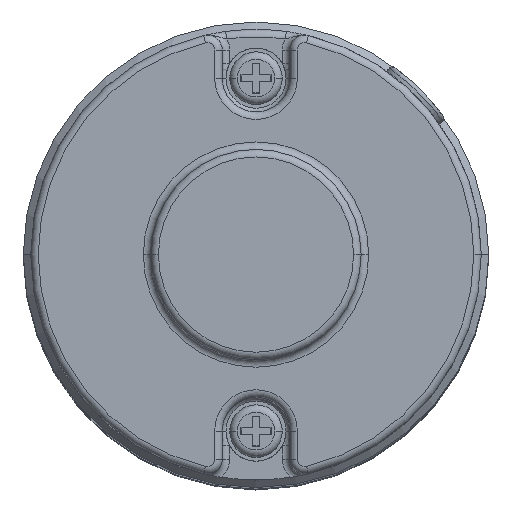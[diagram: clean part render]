
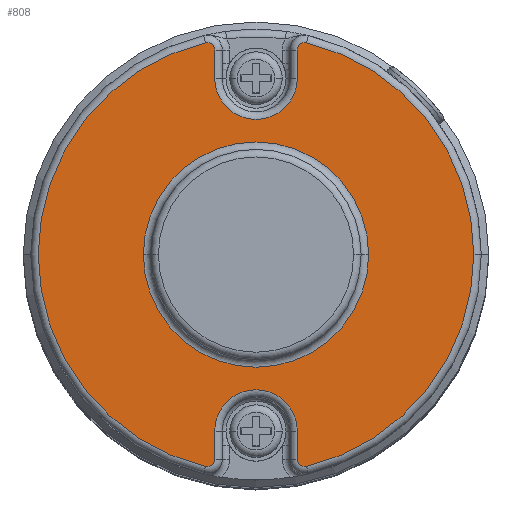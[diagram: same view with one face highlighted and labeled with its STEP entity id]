
A CAD part, top view. The second image highlights one B-rep face of the part: STEP entity #808.
In plain terms, the highlighted planar face has unit normal (0, 0, 1).
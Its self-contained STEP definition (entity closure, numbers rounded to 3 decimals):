
#127 = ORIENTED_EDGE ( 'NONE', *, *, #5925, .T. ) ;
#153 = VECTOR ( 'NONE', #2203, 1000. ) ;
#186 = VERTEX_POINT ( 'NONE', #4788 ) ;
#222 = EDGE_CURVE ( 'NONE', #7160, #186, #3105, .T. ) ;
#233 = DIRECTION ( 'NONE',  ( 0., 1., 0. ) ) ;
#449 = AXIS2_PLACEMENT_3D ( 'NONE', #2745, #2624, #829 ) ;
#454 = CARTESIAN_POINT ( 'NONE',  ( -15., 0., 20.5 ) ) ;
#470 = DIRECTION ( 'NONE',  ( 1., 0., 0. ) ) ;
#581 = VERTEX_POINT ( 'NONE', #454 ) ;
#620 = DIRECTION ( 'NONE',  ( 1., 0., 0. ) ) ;
#695 = CIRCLE ( 'NONE', #2823, 1. ) ;
#795 = ORIENTED_EDGE ( 'NONE', *, *, #5416, .T. ) ;
#808 = ADVANCED_FACE ( 'NONE', ( #2704, #4553 ), #7147, .T. ) ;
#829 = DIRECTION ( 'NONE',  ( 1., 0., 0. ) ) ;
#925 = ORIENTED_EDGE ( 'NONE', *, *, #222, .T. ) ;
#1092 = AXIS2_PLACEMENT_3D ( 'NONE', #2587, #3056, #7779 ) ;
#1171 = AXIS2_PLACEMENT_3D ( 'NONE', #3589, #6946, #6815 ) ;
#1229 = DIRECTION ( 'NONE',  ( 1., 0., 0. ) ) ;
#1259 = DIRECTION ( 'NONE',  ( 0., 0., -1. ) ) ;
#1382 = CARTESIAN_POINT ( 'NONE',  ( -5.5, 27.235, 20.5 ) ) ;
#1402 = EDGE_LOOP ( 'NONE', ( #1570, #5036, #7986, #925, #2947, #1751, #795, #3203, #3284, #127, #6788, #1699, #7995 ) ) ;
#1543 = CIRCLE ( 'NONE', #4904, 29. ) ;
#1568 = DIRECTION ( 'NONE',  ( 0., -1., 0. ) ) ;
#1570 = ORIENTED_EDGE ( 'NONE', *, *, #6339, .T. ) ;
#1596 = EDGE_CURVE ( 'NONE', #1738, #7160, #1543, .T. ) ;
#1699 = ORIENTED_EDGE ( 'NONE', *, *, #7785, .T. ) ;
#1719 = CARTESIAN_POINT ( 'NONE',  ( -5.5, -27.235, 20.5 ) ) ;
#1738 = VERTEX_POINT ( 'NONE', #4870 ) ;
#1751 = ORIENTED_EDGE ( 'NONE', *, *, #6089, .T. ) ;
#1753 = CARTESIAN_POINT ( 'NONE',  ( -6.5, -27.235, 20.5 ) ) ;
#1763 = EDGE_CURVE ( 'NONE', #581, #6626, #4640, .T. ) ;
#1799 = EDGE_CURVE ( 'NONE', #186, #2953, #6949, .T. ) ;
#1955 = CARTESIAN_POINT ( 'NONE',  ( 5.5, 23.5, 20.5 ) ) ;
#2010 = EDGE_CURVE ( 'NONE', #2193, #3493, #4733, .T. ) ;
#2193 = VERTEX_POINT ( 'NONE', #7526 ) ;
#2194 = CARTESIAN_POINT ( 'NONE',  ( 5.5, 23.5, 20.5 ) ) ;
#2196 = CARTESIAN_POINT ( 'NONE',  ( -5.5, -23.5, 20.5 ) ) ;
#2203 = DIRECTION ( 'NONE',  ( 0., -1., 0. ) ) ;
#2269 = AXIS2_PLACEMENT_3D ( 'NONE', #2895, #4878, #470 ) ;
#2370 = DIRECTION ( 'NONE',  ( 0., 0., 1. ) ) ;
#2436 = CIRCLE ( 'NONE', #4997, 29. ) ;
#2479 = CARTESIAN_POINT ( 'NONE',  ( 6.5, -27.235, 20.5 ) ) ;
#2587 = CARTESIAN_POINT ( 'NONE',  ( 0., 23.5, 20.5 ) ) ;
#2606 = CIRCLE ( 'NONE', #5045, 1. ) ;
#2624 = DIRECTION ( 'NONE',  ( 0., 0., 1. ) ) ;
#2704 = FACE_OUTER_BOUND ( 'NONE', #1402, .T. ) ;
#2745 = CARTESIAN_POINT ( 'NONE',  ( 0., 0., 20.5 ) ) ;
#2772 = ORIENTED_EDGE ( 'NONE', *, *, #6762, .T. ) ;
#2823 = AXIS2_PLACEMENT_3D ( 'NONE', #7397, #2370, #3617 ) ;
#2895 = CARTESIAN_POINT ( 'NONE',  ( 0., -23.5, 20.5 ) ) ;
#2947 = ORIENTED_EDGE ( 'NONE', *, *, #1799, .T. ) ;
#2953 = VERTEX_POINT ( 'NONE', #4439 ) ;
#3006 = CARTESIAN_POINT ( 'NONE',  ( -6.732, -28.208, 20.5 ) ) ;
#3056 = DIRECTION ( 'NONE',  ( 0., 0., -1. ) ) ;
#3094 = DIRECTION ( 'NONE',  ( 0., 0., 1. ) ) ;
#3105 = CIRCLE ( 'NONE', #5677, 29. ) ;
#3203 = ORIENTED_EDGE ( 'NONE', *, *, #2010, .T. ) ;
#3272 = VECTOR ( 'NONE', #4761, 1000. ) ;
#3284 = ORIENTED_EDGE ( 'NONE', *, *, #5800, .T. ) ;
#3467 = DIRECTION ( 'NONE',  ( 1., 0., 0. ) ) ;
#3493 = VERTEX_POINT ( 'NONE', #1382 ) ;
#3589 = CARTESIAN_POINT ( 'NONE',  ( 0., 0., 20.5 ) ) ;
#3617 = DIRECTION ( 'NONE',  ( 1., 0., 0. ) ) ;
#3651 = VERTEX_POINT ( 'NONE', #5413 ) ;
#3705 = CARTESIAN_POINT ( 'NONE',  ( 0., 0., 20.5 ) ) ;
#3721 = CARTESIAN_POINT ( 'NONE',  ( 6.5, 27.235, 20.5 ) ) ;
#3837 = VECTOR ( 'NONE', #233, 1000. ) ;
#4129 = CARTESIAN_POINT ( 'NONE',  ( -5.5, 27.235, 20.5 ) ) ;
#4139 = DIRECTION ( 'NONE',  ( 0., 0., 1. ) ) ;
#4309 = CARTESIAN_POINT ( 'NONE',  ( 0., 0., 20.5 ) ) ;
#4439 = CARTESIAN_POINT ( 'NONE',  ( 5.5, 27.235, 20.5 ) ) ;
#4459 = DIRECTION ( 'NONE',  ( 1., 0., 0. ) ) ;
#4553 = FACE_BOUND ( 'NONE', #5276, .T. ) ;
#4572 = EDGE_CURVE ( 'NONE', #5653, #3651, #4824, .T. ) ;
#4575 = CARTESIAN_POINT ( 'NONE',  ( -6.732, 28.208, 20.5 ) ) ;
#4640 = CIRCLE ( 'NONE', #1171, 15. ) ;
#4733 = LINE ( 'NONE', #4129, #3837 ) ;
#4760 = ORIENTED_EDGE ( 'NONE', *, *, #1763, .T. ) ;
#4761 = DIRECTION ( 'NONE',  ( 0., 1., 0. ) ) ;
#4788 = CARTESIAN_POINT ( 'NONE',  ( 6.732, 28.208, 20.5 ) ) ;
#4824 = CIRCLE ( 'NONE', #2269, 5.5 ) ;
#4833 = CIRCLE ( 'NONE', #1092, 5.5 ) ;
#4870 = CARTESIAN_POINT ( 'NONE',  ( 6.732, -28.208, 20.5 ) ) ;
#4878 = DIRECTION ( 'NONE',  ( 0., 0., -1. ) ) ;
#4904 = AXIS2_PLACEMENT_3D ( 'NONE', #7918, #6106, #3467 ) ;
#4961 = CARTESIAN_POINT ( 'NONE',  ( 5.5, -27.235, 20.5 ) ) ;
#4997 = AXIS2_PLACEMENT_3D ( 'NONE', #3705, #6303, #4459 ) ;
#5036 = ORIENTED_EDGE ( 'NONE', *, *, #7691, .T. ) ;
#5045 = AXIS2_PLACEMENT_3D ( 'NONE', #2479, #6365, #1229 ) ;
#5194 = CARTESIAN_POINT ( 'NONE',  ( 29., 0., 20.5 ) ) ;
#5276 = EDGE_LOOP ( 'NONE', ( #2772, #4760 ) ) ;
#5413 = CARTESIAN_POINT ( 'NONE',  ( 5.5, -23.5, 20.5 ) ) ;
#5416 = EDGE_CURVE ( 'NONE', #6115, #2193, #4833, .T. ) ;
#5541 = DIRECTION ( 'NONE',  ( 0., 0., 1. ) ) ;
#5556 = VERTEX_POINT ( 'NONE', #4961 ) ;
#5653 = VERTEX_POINT ( 'NONE', #6676 ) ;
#5675 = DIRECTION ( 'NONE',  ( 1., 0., 0. ) ) ;
#5677 = AXIS2_PLACEMENT_3D ( 'NONE', #6858, #4139, #6732 ) ;
#5800 = EDGE_CURVE ( 'NONE', #3493, #8129, #695, .T. ) ;
#5925 = EDGE_CURVE ( 'NONE', #8129, #6696, #2436, .T. ) ;
#5961 = LINE ( 'NONE', #7983, #153 ) ;
#6089 = EDGE_CURVE ( 'NONE', #2953, #6115, #7972, .T. ) ;
#6106 = DIRECTION ( 'NONE',  ( 0., 0., 1. ) ) ;
#6115 = VERTEX_POINT ( 'NONE', #1955 ) ;
#6303 = DIRECTION ( 'NONE',  ( 0., 0., 1. ) ) ;
#6319 = DIRECTION ( 'NONE',  ( 1., 0., 0. ) ) ;
#6339 = EDGE_CURVE ( 'NONE', #3651, #5556, #5961, .T. ) ;
#6358 = AXIS2_PLACEMENT_3D ( 'NONE', #4309, #1259, #620 ) ;
#6365 = DIRECTION ( 'NONE',  ( 0., 0., 1. ) ) ;
#6626 = VERTEX_POINT ( 'NONE', #7620 ) ;
#6676 = CARTESIAN_POINT ( 'NONE',  ( -5.5, -23.5, 20.5 ) ) ;
#6690 = EDGE_CURVE ( 'NONE', #6696, #7609, #8112, .T. ) ;
#6696 = VERTEX_POINT ( 'NONE', #3006 ) ;
#6732 = DIRECTION ( 'NONE',  ( 1., 0., 0. ) ) ;
#6749 = LINE ( 'NONE', #2196, #3272 ) ;
#6762 = EDGE_CURVE ( 'NONE', #6626, #581, #7710, .T. ) ;
#6788 = ORIENTED_EDGE ( 'NONE', *, *, #6690, .T. ) ;
#6815 = DIRECTION ( 'NONE',  ( 1., 0., 0. ) ) ;
#6858 = CARTESIAN_POINT ( 'NONE',  ( 0., 0., 20.5 ) ) ;
#6946 = DIRECTION ( 'NONE',  ( 0., 0., -1. ) ) ;
#6949 = CIRCLE ( 'NONE', #8027, 1. ) ;
#7032 = AXIS2_PLACEMENT_3D ( 'NONE', #1753, #3094, #5675 ) ;
#7147 = PLANE ( 'NONE',  #449 ) ;
#7160 = VERTEX_POINT ( 'NONE', #5194 ) ;
#7397 = CARTESIAN_POINT ( 'NONE',  ( -6.5, 27.235, 20.5 ) ) ;
#7526 = CARTESIAN_POINT ( 'NONE',  ( -5.5, 23.5, 20.5 ) ) ;
#7609 = VERTEX_POINT ( 'NONE', #1719 ) ;
#7620 = CARTESIAN_POINT ( 'NONE',  ( 15., 0., 20.5 ) ) ;
#7691 = EDGE_CURVE ( 'NONE', #5556, #1738, #2606, .T. ) ;
#7710 = CIRCLE ( 'NONE', #6358, 15. ) ;
#7779 = DIRECTION ( 'NONE',  ( 1., 0., 0. ) ) ;
#7785 = EDGE_CURVE ( 'NONE', #7609, #5653, #6749, .T. ) ;
#7822 = VECTOR ( 'NONE', #1568, 1000. ) ;
#7918 = CARTESIAN_POINT ( 'NONE',  ( 0., 0., 20.5 ) ) ;
#7972 = LINE ( 'NONE', #2194, #7822 ) ;
#7983 = CARTESIAN_POINT ( 'NONE',  ( 5.5, -27.235, 20.5 ) ) ;
#7986 = ORIENTED_EDGE ( 'NONE', *, *, #1596, .T. ) ;
#7995 = ORIENTED_EDGE ( 'NONE', *, *, #4572, .T. ) ;
#8027 = AXIS2_PLACEMENT_3D ( 'NONE', #3721, #5541, #6319 ) ;
#8112 = CIRCLE ( 'NONE', #7032, 1. ) ;
#8129 = VERTEX_POINT ( 'NONE', #4575 ) ;
